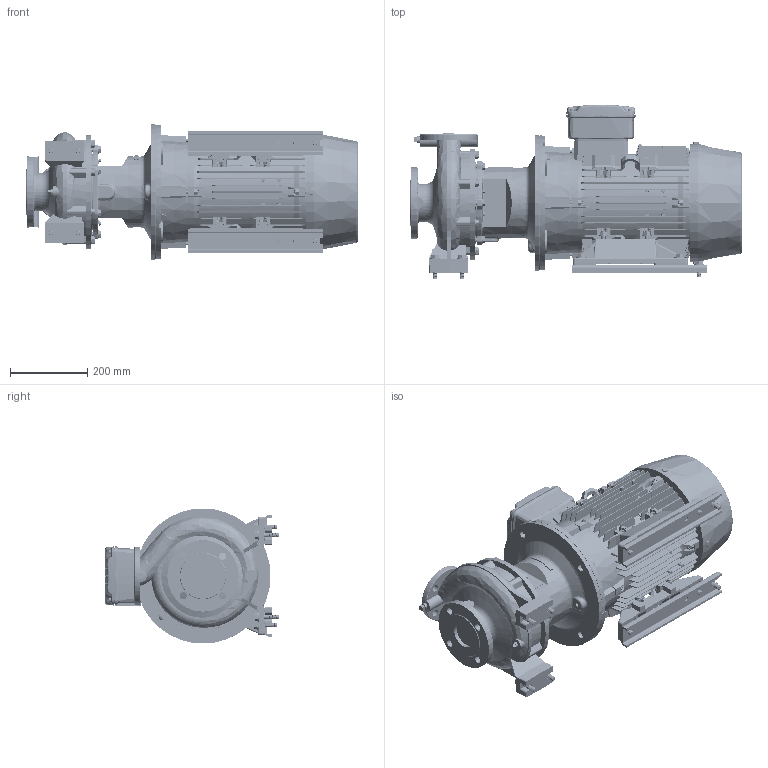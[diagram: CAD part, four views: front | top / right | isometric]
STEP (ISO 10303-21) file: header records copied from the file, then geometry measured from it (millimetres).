
FILE_DESCRIPTION (( 'STEP AP214' ), '1' );
FILE_NAME ('GSD2 40-200_11.0, 15.0 & 18.5_(160ML)_W21.STEP', '2026-07-02T05:32:17', ( '' ), ( '' ), 'SwSTEP 2.0', 'SolidWorks 2024', '' );
FILE_SCHEMA (( 'AUTOMOTIVE_DESIGN' ));
Length unit declared in the file: inch
Products named in the file (19): Parametric bolt and washer_SFT-A301B.STEP; Parametric bolt and washer_SFT-A309B-2.STEP; Parametric bolt and washer_SFT-A309B-1.STEP; Parametric bolt and washer_SFT-A301B-2.STEP; Parametric bolt and washer_SFT-A301B-3.STEP; Parametric bolt_SFT-A309B.STEP; Parametric bolt and washer_SFT-A301B-1.STEP; Parametric bolt and washer_SFT-A301B-5.STEP; GSD2  40-200_11.0, 15.0 & 18.5_(160ML)_W21; Parametric bolt and washer_SFT-A309B.STEP; Parametric bolt and washer_SFT-A301B-4.STEP; Parametric bolt and washer_SFT-A309B-3.STEP; Parametric bolt_SFT-A301B.STEP; Parametric Flat Washer_M12.STEP; CGS11-5301_2_3_4_5_CGS11-5301.STEP; 210_254 x 20 - 271472113.STEP; 40-200-160M_L.STEP; GSD2 40-200_15KW.STEP; 160M_L_ALIE3W21T_B35.STEP
Assembly tree (37 placements, depth 4):
  GSD2  40-200_11.0, 15.0 & 18.5_(160ML)_W21
    GSD2 40-200_15KW.STEP
      Parametric bolt and washer_SFT-A309B.STEP
        Parametric bolt_SFT-A309B.STEP
        Parametric Flat Washer_M12.STEP
      Parametric bolt and washer_SFT-A309B-1.STEP
        Parametric bolt_SFT-A309B.STEP
        Parametric Flat Washer_M12.STEP
      Parametric bolt and washer_SFT-A309B-2.STEP
        Parametric bolt_SFT-A309B.STEP
        Parametric Flat Washer_M12.STEP
      Parametric bolt and washer_SFT-A309B-3.STEP
        Parametric bolt_SFT-A309B.STEP
        Parametric Flat Washer_M12.STEP
      Parametric bolt and washer_SFT-A301B.STEP
        Parametric bolt_SFT-A301B.STEP
        Parametric Flat Washer_M12.STEP
      Parametric bolt and washer_SFT-A301B-1.STEP
        Parametric bolt_SFT-A301B.STEP
        Parametric Flat Washer_M12.STEP
      Parametric bolt and washer_SFT-A301B-2.STEP
        Parametric bolt_SFT-A301B.STEP
        Parametric Flat Washer_M12.STEP
      Parametric bolt and washer_SFT-A301B-3.STEP
        Parametric bolt_SFT-A301B.STEP
        Parametric Flat Washer_M12.STEP
      Parametric bolt and washer_SFT-A301B-4.STEP
        Parametric bolt_SFT-A301B.STEP
        Parametric Flat Washer_M12.STEP
      Parametric bolt and washer_SFT-A301B-5.STEP
        Parametric bolt_SFT-A301B.STEP
        Parametric Flat Washer_M12.STEP
      40-200-160M_L.STEP
      CGS11-5301_2_3_4_5_CGS11-5301.STEP  x2
      210_254 x 20 - 271472113.STEP  x2
      160M_L_ALIE3W21T_B35.STEP
Bounding box: 860.3 x 452.03 x 350 mm (x, y, z)
Volume: 43992207.7 mm3; surface area: 2879540.2 mm2
Topology: 64 solids, 70 shells, 6400 faces, 16663 edges, 10833 vertices
Faces by surface type: plane 3833, cylinder 1284, cone 575, bspline 436, torus 254, sphere 18
Entity records: 225502 total; most frequent: CARTESIAN_POINT 85930, ORIENTED_EDGE 30506, DIRECTION 25933, EDGE_CURVE 15253, VERTEX_POINT 9937, LINE 9695, VECTOR 9695, AXIS2_PLACEMENT_3D 8119
